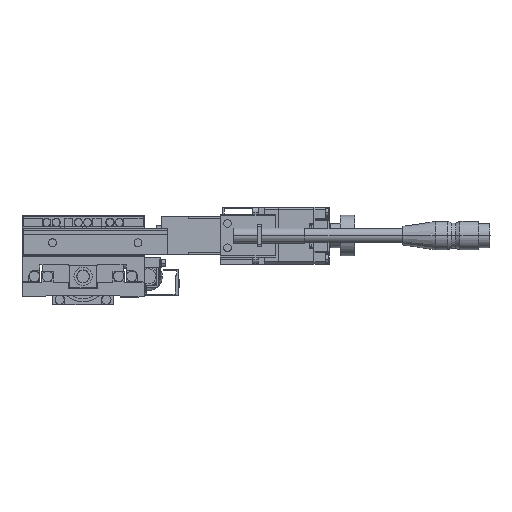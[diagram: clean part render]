
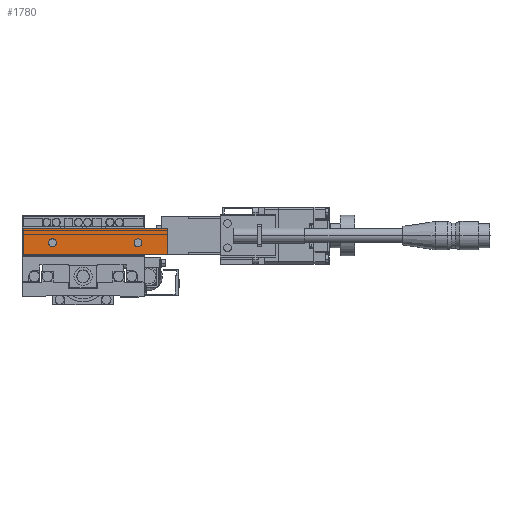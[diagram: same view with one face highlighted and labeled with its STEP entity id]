
A CAD part, left-side view. The second image highlights one B-rep face of the part: STEP entity #1780.
In plain terms, the highlighted planar face has unit normal (-1, 0, 0).
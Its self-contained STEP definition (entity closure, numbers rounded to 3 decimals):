
#1780=ADVANCED_FACE('',(#4600,#4601,#4602),#4603,.F.);
#4600=FACE_BOUND('',#7747,.T.);
#4601=FACE_BOUND('',#7748,.T.);
#4602=FACE_OUTER_BOUND('',#7749,.T.);
#4603=PLANE('',#7750);
#7747=EDGE_LOOP('',(#17797,#17798));
#7748=EDGE_LOOP('',(#17799,#17800));
#7749=EDGE_LOOP('',(#17801,#17802,#17803,#17804));
#7750=AXIS2_PLACEMENT_3D('',#17805,#17806,#17807);
#17797=ORIENTED_EDGE('',*,*,#23057,.T.);
#17798=ORIENTED_EDGE('',*,*,#23056,.T.);
#17799=ORIENTED_EDGE('',*,*,#23059,.T.);
#17800=ORIENTED_EDGE('',*,*,#23044,.T.);
#17801=ORIENTED_EDGE('',*,*,#23060,.T.);
#17802=ORIENTED_EDGE('',*,*,#23061,.F.);
#17803=ORIENTED_EDGE('',*,*,#23062,.F.);
#17804=ORIENTED_EDGE('',*,*,#23063,.T.);
#17805=CARTESIAN_POINT('',(-46.8,-41.5,33.5));
#17806=DIRECTION('',(1.0,0.,0.));
#17807=DIRECTION('',(0.,0.,-1.0));
#23044=EDGE_CURVE('',#28551,#28555,#28557,.T.);
#23056=EDGE_CURVE('',#28575,#28579,#28581,.T.);
#23057=EDGE_CURVE('',#28579,#28575,#28582,.T.);
#23059=EDGE_CURVE('',#28555,#28551,#28584,.T.);
#23060=EDGE_CURVE('',#28585,#28586,#28587,.T.);
#23061=EDGE_CURVE('',#28588,#28586,#28589,.T.);
#23062=EDGE_CURVE('',#28590,#28588,#28591,.T.);
#23063=EDGE_CURVE('',#28590,#28585,#28592,.T.);
#28551=VERTEX_POINT('',#36784);
#28555=VERTEX_POINT('',#36789);
#28557=CIRCLE('',#36792,1.95);
#28575=VERTEX_POINT('',#36814);
#28579=VERTEX_POINT('',#36819);
#28581=CIRCLE('',#36822,1.95);
#28582=CIRCLE('',#36823,1.95);
#28584=CIRCLE('',#36825,1.95);
#28585=VERTEX_POINT('',#36826);
#28586=VERTEX_POINT('',#36827);
#28587=LINE('',#36828,#36829);
#28588=VERTEX_POINT('',#36830);
#28589=LINE('',#36831,#36832);
#28590=VERTEX_POINT('',#36833);
#28591=LINE('',#36834,#36835);
#28592=LINE('',#36836,#36837);
#36784=CARTESIAN_POINT('',(-46.8,-28.95,26.5));
#36789=CARTESIAN_POINT('',(-46.8,-25.05,26.5));
#36792=AXIS2_PLACEMENT_3D('',#43430,#43431,#43432);
#36814=CARTESIAN_POINT('',(-46.8,13.05,26.5));
#36819=CARTESIAN_POINT('',(-46.8,16.95,26.5));
#36822=AXIS2_PLACEMENT_3D('',#43454,#43455,#43456);
#36823=AXIS2_PLACEMENT_3D('',#43457,#43458,#43459);
#36825=AXIS2_PLACEMENT_3D('',#43463,#43464,#43465);
#36826=CARTESIAN_POINT('',(-46.8,29.5,33.5));
#36827=CARTESIAN_POINT('',(-46.8,29.5,20.5));
#36828=CARTESIAN_POINT('',(-46.8,29.5,33.5));
#36829=VECTOR('',#43466,1000.0);
#36830=CARTESIAN_POINT('',(-46.8,-41.5,20.5));
#36831=CARTESIAN_POINT('',(-46.8,-41.5,20.5));
#36832=VECTOR('',#43467,1000.0);
#36833=CARTESIAN_POINT('',(-46.8,-41.5,33.5));
#36834=CARTESIAN_POINT('',(-46.8,-41.5,33.5));
#36835=VECTOR('',#43468,1000.0);
#36836=CARTESIAN_POINT('',(-46.8,-41.5,33.5));
#36837=VECTOR('',#43469,1000.0);
#43430=CARTESIAN_POINT('',(-46.8,-27.,26.5));
#43431=DIRECTION('',(1.0,0.,0.));
#43432=DIRECTION('',(0.,1.0,0.));
#43454=CARTESIAN_POINT('',(-46.8,15.,26.5));
#43455=DIRECTION('',(1.0,0.,0.));
#43456=DIRECTION('',(0.,1.0,0.));
#43457=CARTESIAN_POINT('',(-46.8,15.,26.5));
#43458=DIRECTION('',(1.0,0.,0.));
#43459=DIRECTION('',(0.,1.0,0.));
#43463=CARTESIAN_POINT('',(-46.8,-27.,26.5));
#43464=DIRECTION('',(1.0,0.,0.));
#43465=DIRECTION('',(0.,1.0,0.));
#43466=DIRECTION('',(0.,0.,-1.0));
#43467=DIRECTION('',(0.,1.0,0.));
#43468=DIRECTION('',(0.,0.,-1.0));
#43469=DIRECTION('',(0.,1.0,0.));
